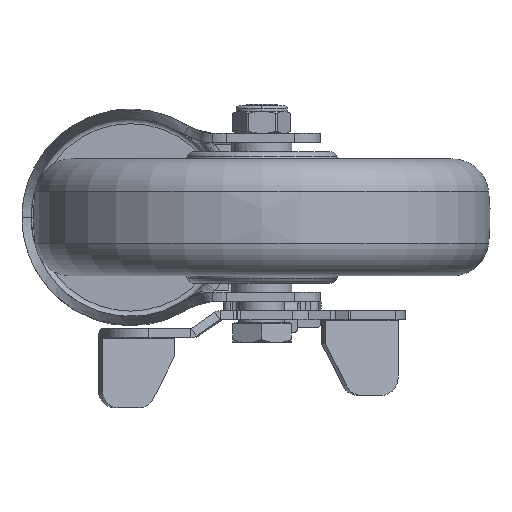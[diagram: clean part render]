
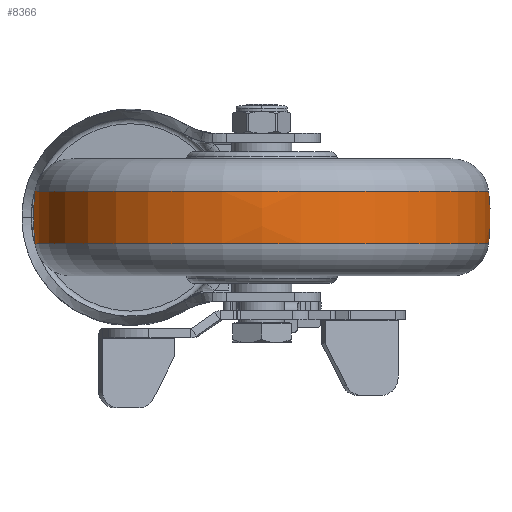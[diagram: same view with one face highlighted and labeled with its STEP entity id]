
A CAD part, front view. The second image highlights one B-rep face of the part: STEP entity #8366.
In plain terms, the highlighted free-form (B-spline) face has degree [3, 3] with [7, 4] control points.
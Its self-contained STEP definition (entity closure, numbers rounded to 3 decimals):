
#7758=CARTESIAN_POINT('',(-7.2,0.,0.));
#7759=DIRECTION('',(-1.,0.,0.));
#7760=DIRECTION('',(0.,1.,0.));
#7761=AXIS2_PLACEMENT_3D('',#7758,#7759,#7760);
#7773=CARTESIAN_POINT('',(0.,2.5,0.));
#7774=DIRECTION('',(0.,0.,1.));
#7775=DIRECTION('',(0.12,0.993,0.));
#7776=AXIS2_PLACEMENT_3D('',#7773,#7774,#7775);
#7778=CARTESIAN_POINT('',(0.,-2.5,0.));
#7779=DIRECTION('',(0.,0.,-1.));
#7780=DIRECTION('',(0.12,-0.993,0.));
#7781=AXIS2_PLACEMENT_3D('',#7778,#7779,#7780);
#7783=CARTESIAN_POINT('',(7.2,0.,0.));
#7784=DIRECTION('',(-1.,0.,0.));
#7785=DIRECTION('',(0.,1.,0.));
#7786=AXIS2_PLACEMENT_3D('',#7783,#7784,#7785);
#8007=CARTESIAN_POINT('',(-7.2,62.066,0.));
#8009=VERTEX_POINT('',#8007);
#8011=CARTESIAN_POINT('',(-7.2,-62.066,
0.));
#8013=VERTEX_POINT('',#8011);
#8040=CARTESIAN_POINT('',(7.2,62.066,0.));
#8042=VERTEX_POINT('',#8040);
#8044=CARTESIAN_POINT('',(7.2,-62.066,
0.));
#8046=VERTEX_POINT('',#8044);
#8330=CARTESIAN_POINT('',(-7.487,-61.909,
3.895));
#8331=CARTESIAN_POINT('',(-2.509,-62.533,
3.934));
#8332=CARTESIAN_POINT('',(2.509,-62.533,3.934));
#8333=CARTESIAN_POINT('',(7.487,-61.909,3.895));
#8334=CARTESIAN_POINT('',(-7.487,-64.306,
-34.204));
#8335=CARTESIAN_POINT('',(-2.509,-64.955,
-34.549));
#8336=CARTESIAN_POINT('',(2.509,-64.955,
-34.549));
#8337=CARTESIAN_POINT('',(7.487,-64.306,
-34.204));
#8338=CARTESIAN_POINT('',(-7.487,-38.174,
-62.031));
#8339=CARTESIAN_POINT('',(-2.509,-38.559,
-62.657));
#8340=CARTESIAN_POINT('',(2.509,-38.559,
-62.657));
#8341=CARTESIAN_POINT('',(7.487,-38.174,
-62.031));
#8342=CARTESIAN_POINT('',(-7.487,0.,
-62.031));
#8343=CARTESIAN_POINT('',(-2.509,0.,
-62.657));
#8344=CARTESIAN_POINT('',(2.509,0.,
-62.657));
#8345=CARTESIAN_POINT('',(7.487,0.,
-62.031));
#8346=CARTESIAN_POINT('',(-7.487,38.174,
-62.031));
#8347=CARTESIAN_POINT('',(-2.509,38.559,
-62.657));
#8348=CARTESIAN_POINT('',(2.509,38.559,-62.657));
#8349=CARTESIAN_POINT('',(7.487,38.174,-62.031));
#8350=CARTESIAN_POINT('',(-7.487,64.306,
-34.204));
#8351=CARTESIAN_POINT('',(-2.509,64.955,
-34.549));
#8352=CARTESIAN_POINT('',(2.509,64.955,-34.549));
#8353=CARTESIAN_POINT('',(7.487,64.306,-34.204));
#8354=CARTESIAN_POINT('',(-7.487,61.909,3.895));
#8355=CARTESIAN_POINT('',(-2.509,62.533,3.934));
#8356=CARTESIAN_POINT('',(2.509,62.533,3.934));
#8357=CARTESIAN_POINT('',(7.487,61.909,3.895));
#8358=(BOUNDED_SURFACE()B_SPLINE_SURFACE(3,3,((#8330,#8331,#8332,#8333),(#8334,
#8335,#8336,#8337),(#8338,#8339,#8340,#8341),(#8342,#8343,#8344,#8345),(#8346,
#8347,#8348,#8349),(#8350,#8351,#8352,#8353),(#8354,#8355,#8356,#8357)),
.UNSPECIFIED.,.F.,.F.,.F.)B_SPLINE_SURFACE_WITH_KNOTS((4,3,4),(4,4),(0.,1.,
2.),(0.,1.),.UNSPECIFIED.)GEOMETRIC_REPRESENTATION_ITEM()RATIONAL_B_SPLINE_SURFACE(((1.192,1.186,1.186,1.192),(
0.941,0.936,0.936,0.941),(
0.941,0.936,0.936,0.941),(
1.192,1.186,1.186,1.192),(
0.941,0.936,0.936,0.941),(
0.941,0.936,0.936,0.941),(
1.192,1.186,1.186,1.192)))REPRESENTATION_ITEM('')SURFACE());
#8359=ORIENTED_EDGE('',*,*,#8320,.T.);
#8360=ORIENTED_EDGE('',*,*,#8273,.T.);
#8361=ORIENTED_EDGE('',*,*,#8324,.F.);
#8363=ORIENTED_EDGE('',*,*,#8362,.F.);
#8364=EDGE_LOOP('',(#8359,#8360,#8361,#8363));
#8365=FACE_OUTER_BOUND('',#8364,.F.);
#7762=CIRCLE('',#7761,62.066);
#7777=CIRCLE('',#7776,60.);
#7782=CIRCLE('',#7781,60.);
#7787=CIRCLE('',#7786,62.066);
#8273=EDGE_CURVE('',#8009,#8013,#7762,.T.);
#8320=EDGE_CURVE('',#8042,#8009,#7777,.T.);
#8324=EDGE_CURVE('',#8046,#8013,#7782,.T.);
#8362=EDGE_CURVE('',#8042,#8046,#7787,.T.);
#8366=ADVANCED_FACE('',(#8365),#8358,.T.);
